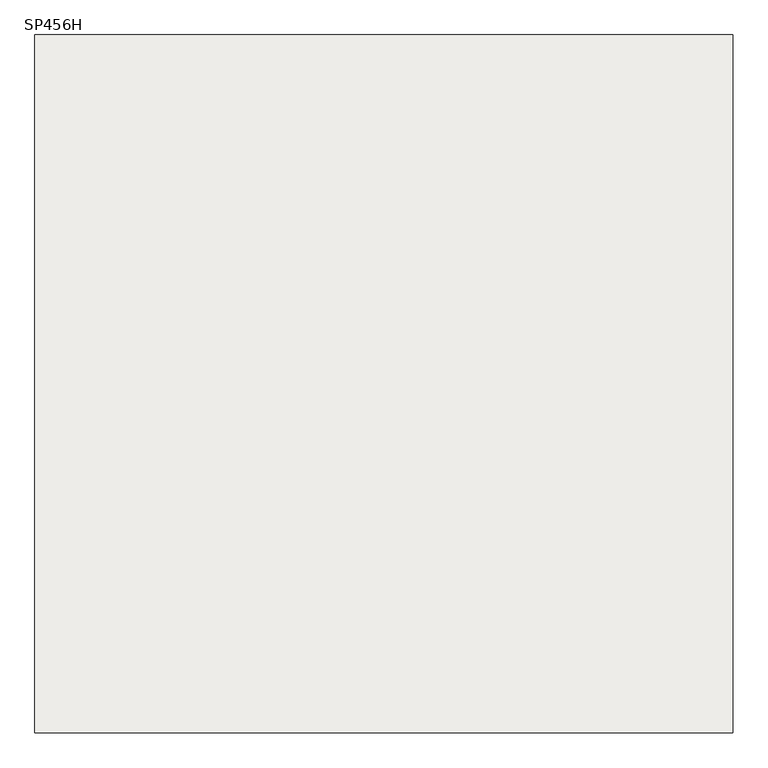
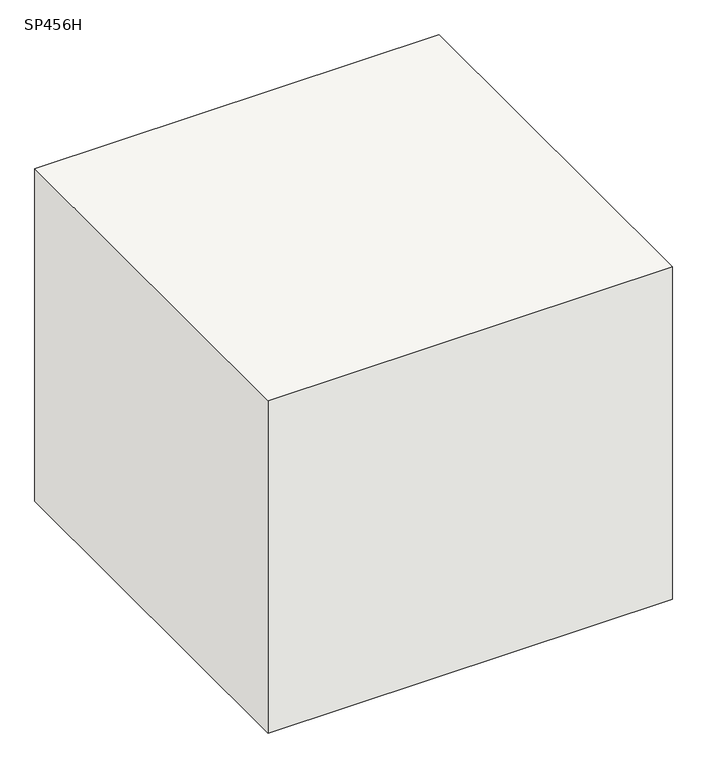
"""IFC4 building model written with IfcOpenShell, lengths in millimetres: slab geometry, 柱形_SP : SP456H."""

from ifc_helpers import new_model, si_unit, frame, origin, place, context, project, spatial, polyline, outline, extrude, source, transform, mapped, element, save


def sp456h_6177a426(model_context):
    return source(origin(), model_context, "Body", "SweptSolid", [
        extrude(outline(polyline([(575.0, 575.0), (575.0, -575.0), (-575.0, -575.0), (-575.0, 575.0), (575.0, 575.0)])), frame((0.0, 0.0, -1000.0), z_axis=(0.0, 0.0, 1.0), x_axis=(1.0, 0.0, 0.0)), (0.0, 0.0, 1.0), 1000.0),
    ])


if __name__ == "__main__":
    model = new_model("IFC4")
    model_context = context("Model", 3, world=origin())
    ifc_project = project(units=[si_unit("LENGTHUNIT", "METRE", prefix="MILLI")], contexts=[model_context])
    site = spatial("IfcSite", under=ifc_project)
    building = spatial("IfcBuilding", under=site)
    placement = place(None, origin())
    sp456h_shape = sp456h_6177a426(model_context)
    element("IfcSlab", 1, ObjectType="柱形_SP : SP456H", at=placement, inside=building, context=model_context, shape_type="MappedRepresentation", body=[
        mapped(sp456h_shape, transform((0.0, 0.0, 0.0), x_axis=(1.0, 0.0, 0.0), y_axis=(0.0, 1.0, 0.0), z_axis=(0.0, 0.0, 1.0))),
    ])
    save(model, "model.ifc")
